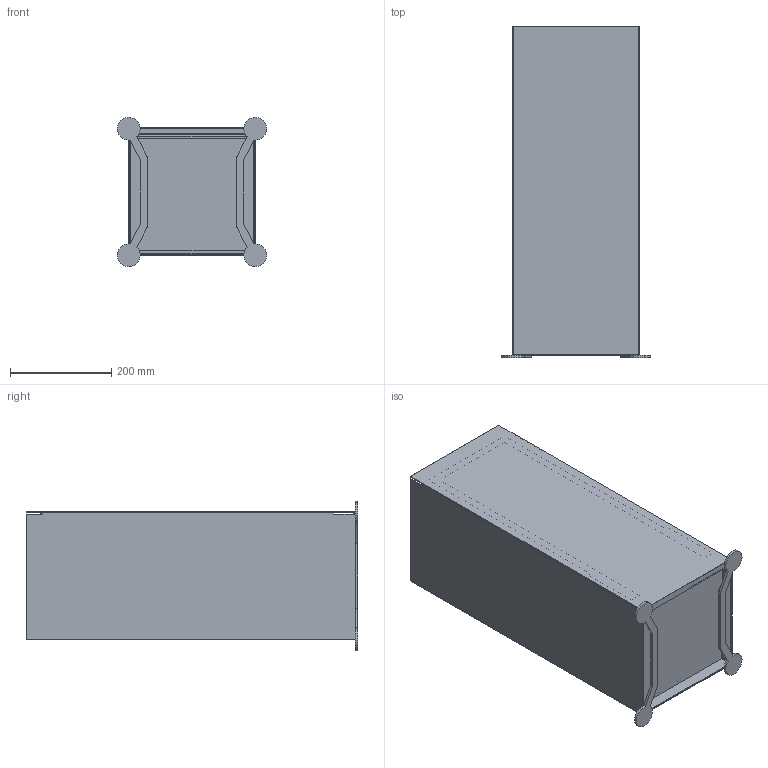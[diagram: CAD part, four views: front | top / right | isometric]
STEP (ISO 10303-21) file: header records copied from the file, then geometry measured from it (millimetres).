
FILE_DESCRIPTION (( 'STEP AP214' ), '1' );
FILE_NAME ('Eskoleia UNIT 003 - Simple.STEP', '2026-09-12T20:27:35', ( '' ), ( '' ), 'SwSTEP 2.0', 'SolidWorks 2025', '' );
FILE_SCHEMA (( 'AUTOMOTIVE_DESIGN' ));
Length unit declared in the file: millimetre
Products named in the file (1): Eskoleia UNIT 003 - Simple
Bounding box: 294.95 x 655 x 294.98 mm (x, y, z)
Volume: 32369690.5 mm3; surface area: 2258132.4 mm2
Topology: 2 solids, 2 shells, 243 faces, 732 edges, 478 vertices
Faces by surface type: plane 217, cylinder 22, bspline 4
Entity records: 8240 total; most frequent: CARTESIAN_POINT 1596, ORIENTED_EDGE 1464, DIRECTION 1260, EDGE_CURVE 732, LINE 644, VECTOR 644, VERTEX_POINT 478, AXIS2_PLACEMENT_3D 308
